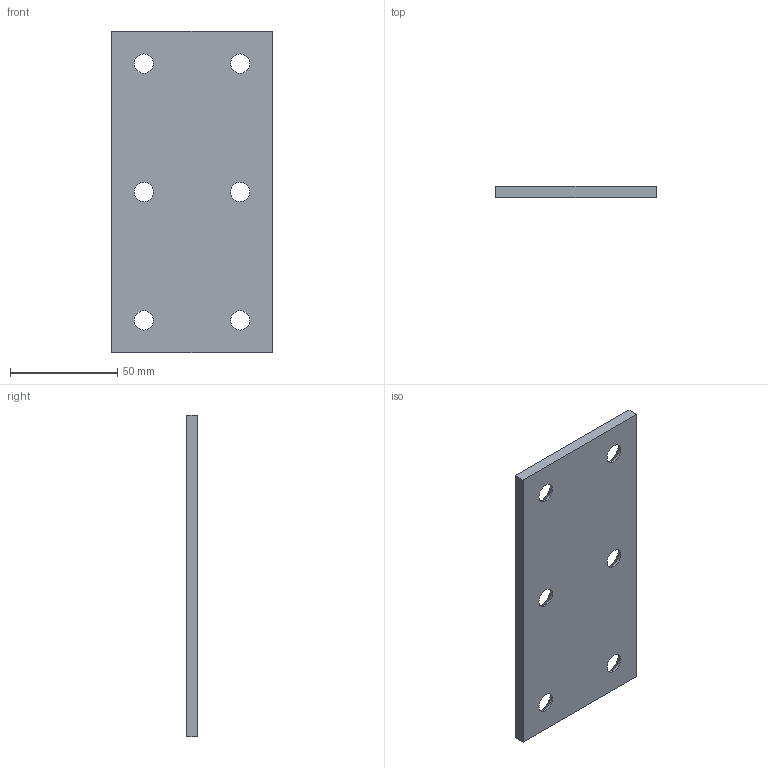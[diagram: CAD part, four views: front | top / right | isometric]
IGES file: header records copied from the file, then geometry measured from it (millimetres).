
Start section: Data from Parasolid IGES Translator 20.0.26, Copyright(c) 2006 Siemens P LM Software. All Rights Reserved.
Global section: file name: P605-01-075-150.igs; native system: By Siemens PLM Incorporated; preprocessor: XPlus GENERIC/IGES 20.0.26; author: Noname; organization: Noname; date: 20190705.150128; units: millimetre
Bounding box: 75 x 5 x 150 mm (x, y, z)
Surface area: 24562.3 mm2 (no closed solid volume)
Topology: 0 solids, 0 shells, 18 faces, 84 edges, 68 vertices
Faces by surface type: revolution 12, extrusion 6
